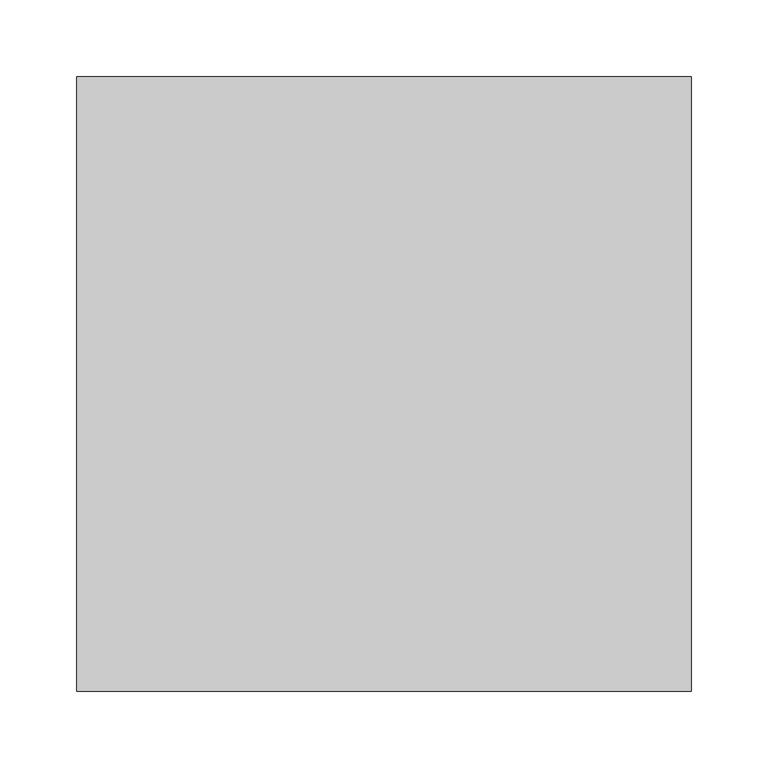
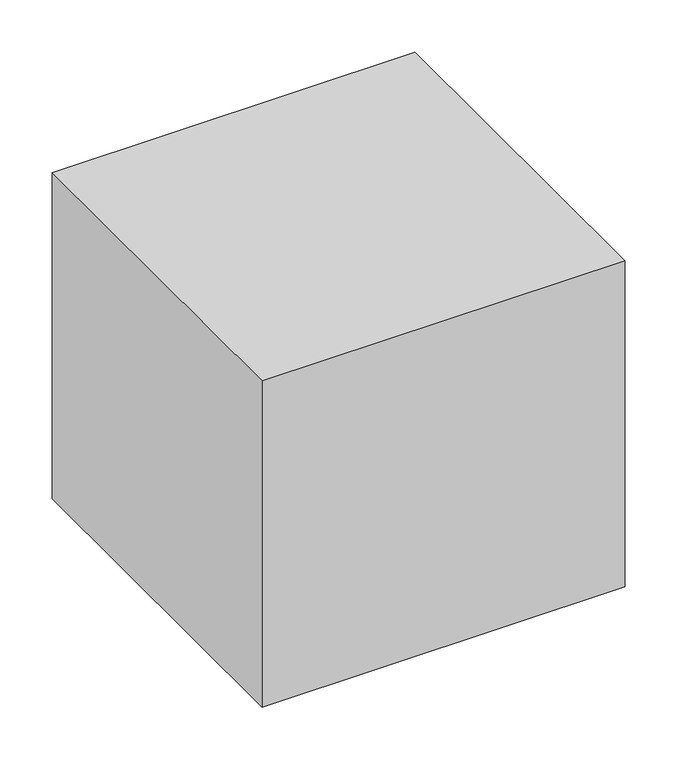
"""IFC4 building model written with IfcOpenShell, lengths in millimetres: furniture geometry, Audo Copenhagen - Plinth - Cubic : Audo Copenhagen - Plinth - Cubic."""

from ifc_helpers import new_model, si_unit, frame, origin, place, context, project, spatial, polyline, circle_curve, outline, extrude, source, transform, mapped, element, save
from ifc_brep_helpers import plane_surface, revolved_surface, advanced_brep


def furniture_fcb89289(model_context):
    return source(origin(), model_context, "Body", "SolidModel", [
        advanced_brep(
        [(-187.0004919, -179.9838299, 0.0), (-173.0004919, -179.9838299, 0.0), (-190.0004919, -179.9838299, 9.9), (-170.0004919, -179.9838299, 9.9)],
        [
            (0, 1, circle_curve(frame((-180.0004919, -179.9838299, 0.0), z_axis=(0.0, 0.0, -1.0), x_axis=(-1.0, 0.0, 0.0)), 7.0)),
            (1, 0, circle_curve(frame((-180.0004919, -179.9838299, 0.0), z_axis=(0.0, 0.0, -1.0), x_axis=(1.0, 0.0, 0.0)), 7.0)),
            (2, 3, circle_curve(frame((-180.0004919, -179.9838299, 9.9), z_axis=(0.0, 0.0, 1.0), x_axis=(1.0, 0.0, 0.0)), 10.0)),
            (3, 2, circle_curve(frame((-180.0004919, -179.9838299, 9.9), z_axis=(0.0, 0.0, 1.0), x_axis=(-1.0, 0.0, 0.0)), 10.0)),
            (3, 1),
            (0, 2),
        ],
        [
            plane_surface(frame((-180.0004919, -179.9838299, 0.0), z_axis=(0.0, 0.0, -1.0), x_axis=(0.0, -1.0, 0.0))),
            plane_surface(frame((-180.0004919, -179.9838299, 9.9), z_axis=(0.0, 0.0, 1.0), x_axis=(0.0, -1.0, 0.0))),
            revolved_surface(polyline([(-187.0004919, -179.9838299, 0.0), (-190.0004919, -179.9838299, 9.899999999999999)]), (-180.0004919, -179.9838299, -23.1), (0.0, 0.0, 1.0)),
            revolved_surface(polyline([(-173.0004919, -179.9838299, 0.0), (-170.0004919, -179.9838299, 9.899999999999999)]), (-180.0004919, -179.9838299, -23.1), (0.0, 0.0, 1.0)),
        ],
        [
            (0, [[1, 2]]),
            (1, [[3, 4]]),
            (2, [[-4, 5, -1, 6]]),
            (3, [[-3, -6, -2, -5]]),
        ],
    ),
        advanced_brep(
        [(187.0004919, -179.9838299, 0.0), (173.0004919, -179.9838299, 0.0), (190.0004919, -179.9838299, 9.9), (170.0004919, -179.9838299, 9.9)],
        [
            (0, 1, circle_curve(frame((180.0004919, -179.9838299, 0.0), z_axis=(0.0, 0.0, -1.0), x_axis=(1.0, 0.0, 0.0)), 7.0)),
            (1, 0, circle_curve(frame((180.0004919, -179.9838299, 0.0), z_axis=(0.0, 0.0, -1.0), x_axis=(-1.0, 0.0, 0.0)), 7.0)),
            (2, 3, circle_curve(frame((180.0004919, -179.9838299, 9.9), z_axis=(0.0, 0.0, 1.0), x_axis=(-1.0, 0.0, 0.0)), 10.0)),
            (3, 2, circle_curve(frame((180.0004919, -179.9838299, 9.9), z_axis=(0.0, 0.0, 1.0), x_axis=(1.0, 0.0, 0.0)), 10.0)),
            (2, 0),
            (1, 3),
        ],
        [
            plane_surface(frame((180.0004919, -179.9838299, 0.0), z_axis=(0.0, 0.0, -1.0), x_axis=(0.0, 1.0, 0.0))),
            plane_surface(frame((180.0004919, -179.9838299, 9.9), z_axis=(0.0, 0.0, 1.0), x_axis=(0.0, 1.0, 0.0))),
            revolved_surface(polyline([(173.0004919, -179.9838299, 0.0), (170.0004919, -179.9838299, 9.899999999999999)]), (180.0004919, -179.9838299, -23.1), (0.0, 0.0, 1.0)),
            revolved_surface(polyline([(187.0004919, -179.9838299, 0.0), (190.0004919, -179.9838299, 9.899999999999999)]), (180.0004919, -179.9838299, -23.1), (0.0, 0.0, 1.0)),
        ],
        [
            (0, [[1, 2]]),
            (1, [[3, 4]]),
            (2, [[-3, 5, -2, 6]]),
            (3, [[-4, -6, -1, -5]]),
        ],
    ),
        advanced_brep(
        [(187.0004919, 179.9838299, 0.0), (173.0004919, 179.9838299, 0.0), (190.0004919, 179.9838299, 9.9), (170.0004919, 179.9838299, 9.9)],
        [
            (0, 1, circle_curve(frame((180.0004919, 179.9838299, 0.0), z_axis=(0.0, 0.0, -1.0), x_axis=(1.0, 0.0, 0.0)), 7.0)),
            (1, 0, circle_curve(frame((180.0004919, 179.9838299, 0.0), z_axis=(0.0, 0.0, -1.0), x_axis=(-1.0, 0.0, 0.0)), 7.0)),
            (2, 3, circle_curve(frame((180.0004919, 179.9838299, 9.9), z_axis=(0.0, 0.0, 1.0), x_axis=(-1.0, 0.0, 0.0)), 10.0)),
            (3, 2, circle_curve(frame((180.0004919, 179.9838299, 9.9), z_axis=(0.0, 0.0, 1.0), x_axis=(1.0, 0.0, 0.0)), 10.0)),
            (3, 1),
            (0, 2),
        ],
        [
            plane_surface(frame((180.0004919, 179.9838299, 0.0), z_axis=(0.0, 0.0, -1.0), x_axis=(0.0, 1.0, 0.0))),
            plane_surface(frame((180.0004919, 179.9838299, 9.9), z_axis=(0.0, 0.0, 1.0), x_axis=(0.0, 1.0, 0.0))),
            revolved_surface(polyline([(187.0004919, 179.9838299, 0.0), (190.0004919, 179.9838299, 9.899999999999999)]), (180.0004919, 179.9838299, -23.1), (0.0, 0.0, 1.0)),
            revolved_surface(polyline([(173.0004919, 179.9838299, 0.0), (170.0004919, 179.9838299, 9.899999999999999)]), (180.0004919, 179.9838299, -23.1), (0.0, 0.0, 1.0)),
        ],
        [
            (0, [[1, 2]]),
            (1, [[3, 4]]),
            (2, [[-4, 5, -1, 6]]),
            (3, [[-3, -6, -2, -5]]),
        ],
    ),
        advanced_brep(
        [(-187.0004919, 179.9838299, 0.0), (-173.0004919, 179.9838299, 0.0), (-190.0004919, 179.9838299, 9.9), (-170.0004919, 179.9838299, 9.9)],
        [
            (0, 1, circle_curve(frame((-180.0004919, 179.9838299, 0.0), z_axis=(0.0, 0.0, -1.0), x_axis=(-1.0, 0.0, 0.0)), 7.0)),
            (1, 0, circle_curve(frame((-180.0004919, 179.9838299, 0.0), z_axis=(0.0, 0.0, -1.0), x_axis=(1.0, 0.0, 0.0)), 7.0)),
            (2, 3, circle_curve(frame((-180.0004919, 179.9838299, 9.9), z_axis=(0.0, 0.0, 1.0), x_axis=(1.0, 0.0, 0.0)), 10.0)),
            (3, 2, circle_curve(frame((-180.0004919, 179.9838299, 9.9), z_axis=(0.0, 0.0, 1.0), x_axis=(-1.0, 0.0, 0.0)), 10.0)),
            (2, 0),
            (1, 3),
        ],
        [
            plane_surface(frame((-180.0004919, 179.9838299, 0.0), z_axis=(0.0, 0.0, -1.0), x_axis=(0.0, -1.0, 0.0))),
            plane_surface(frame((-180.0004919, 179.9838299, 9.9), z_axis=(0.0, 0.0, 1.0), x_axis=(0.0, -1.0, 0.0))),
            revolved_surface(polyline([(-173.0004919, 179.9838299, 0.0), (-170.0004919, 179.9838299, 9.899999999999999)]), (-180.0004919, 179.9838299, -23.1), (0.0, 0.0, 1.0)),
            revolved_surface(polyline([(-187.0004919, 179.9838299, 0.0), (-190.0004919, 179.9838299, 9.899999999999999)]), (-180.0004919, 179.9838299, -23.1), (0.0, 0.0, 1.0)),
        ],
        [
            (0, [[1, 2]]),
            (1, [[3, 4]]),
            (2, [[-3, 5, -2, 6]]),
            (3, [[-4, -6, -1, -5]]),
        ],
    ),
        extrude(outline(polyline([(-200.0, -200.0), (-200.0, 200.0), (200.0, 200.0), (200.0, -200.0), (-200.0, -200.0)])), frame((0.0, 0.0, 9.9), z_axis=(0.0, 0.0, 1.0), x_axis=(1.0, 0.0, 0.0)), (0.0, 0.0, 1.0), 380.0),
    ])


if __name__ == "__main__":
    model = new_model("IFC4")
    model_context = context("Model", 3, world=origin())
    ifc_project = project(units=[si_unit("LENGTHUNIT", "METRE", prefix="MILLI")], contexts=[model_context])
    site = spatial("IfcSite", under=ifc_project)
    building = spatial("IfcBuilding", under=site)
    placement = place(None, origin())
    furniture_shape = furniture_fcb89289(model_context)
    element("IfcFurniture", 1, ObjectType="Audo Copenhagen - Plinth - Cubic : Audo Copenhagen - Plinth - Cubic", at=placement, inside=building, context=model_context, shape_type="MappedRepresentation", body=[
        mapped(furniture_shape, transform((0.0, 0.0, 0.0), x_axis=(1.0, 0.0, 0.0), y_axis=(0.0, 1.0, 0.0), z_axis=(0.0, 0.0, 1.0))),
    ])
    save(model, "model.ifc")
